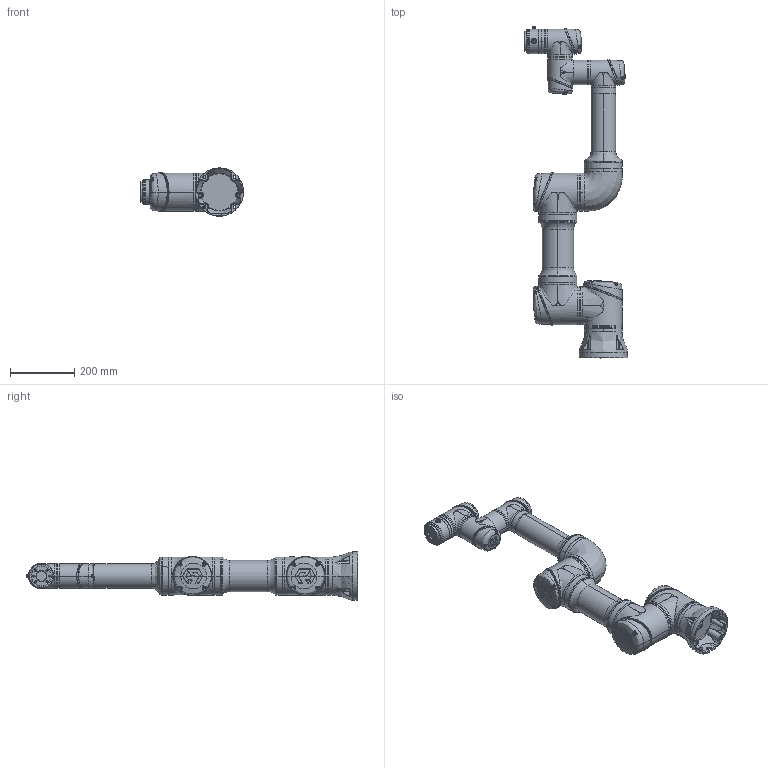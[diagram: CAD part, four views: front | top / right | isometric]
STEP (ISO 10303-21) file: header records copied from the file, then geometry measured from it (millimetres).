
FILE_DESCRIPTION (( 'STEP AP203' ), '1' );
FILE_NAME ('CS_掛极CS68F_V1.1.STEP', '2026-07-27T03:47:11', ( '' ), ( '' ), 'SwSTEP 2.0', 'SolidWorks 2017', '' );
FILE_SCHEMA (( 'CONFIG_CONTROL_DESIGN' ));
Products named in the file (8): CS68F_Link2; CS68F_藺傷; CS68F-Base; CS68F-Link1; CS_掛极CS68F_V1.1; CS68F-Link4; CS68F-Link5; CS68F-Link3
Assembly tree (7 placements, depth 2):
  CS_掛极CS68F_V1.1
    CS68F-Base
    CS68F-Link1
    CS68F_Link2
    CS68F-Link3
    CS68F-Link4
    CS68F-Link5
    CS68F_藺傷
Bounding box: 319.85 x 1030 x 149.7 mm (x, y, z)
Volume: 12592256.5 mm3; surface area: 939792.4 mm2
Topology: 68 solids, 77 shells, 4753 faces, 11440 edges, 6854 vertices
Faces by surface type: bspline 2242, plane 1116, cylinder 783, cone 341, sphere 153, torus 118
Entity records: 780732 total; most frequent: CARTESIAN_POINT 688074, ORIENTED_EDGE 22408, DIRECTION 14461, EDGE_CURVE 11204, VERTEX_POINT 6842, AXIS2_PLACEMENT_3D 6104, EDGE_LOOP 5062, B_SPLINE_CURVE_WITH_KNOTS 4841
